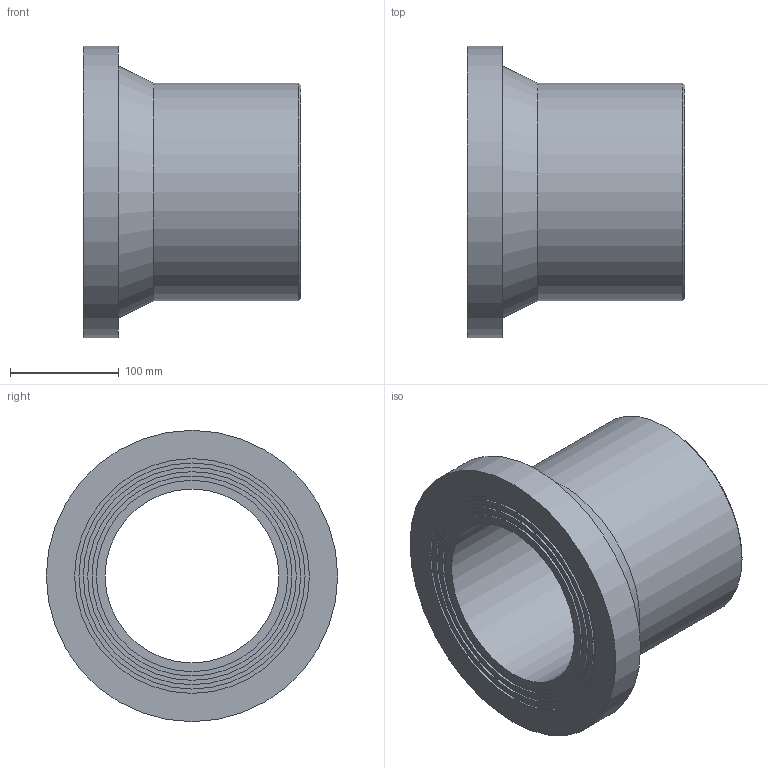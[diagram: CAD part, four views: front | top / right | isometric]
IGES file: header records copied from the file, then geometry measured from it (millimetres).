
Global section: file name: 490207200.ipt; native system: Autodesk Inventor 2015; preprocessor: unknown; author: Кирилл,,11,0; organization: 20170718.095537; date: 20190331.185824; units: millimetre
Bounding box: 200 x 268 x 268 mm (x, y, z)
Volume: 3220467.6 mm3; surface area: 305581.7 mm2
Topology: 1 solids, 1 shells, 20 faces, 33 edges, 22 vertices
Faces by surface type: plane 9, cylinder 5, revolution 4, cone 2
Full cylindrical faces by diameter (mm): 176 x1, 192 x1, 200 x1, 208 x1, 268 x1
